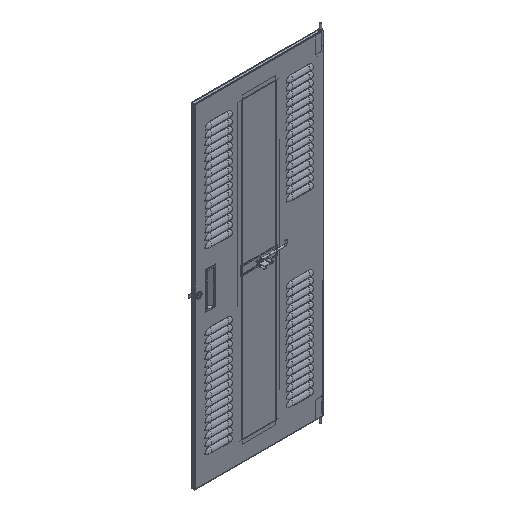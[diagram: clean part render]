
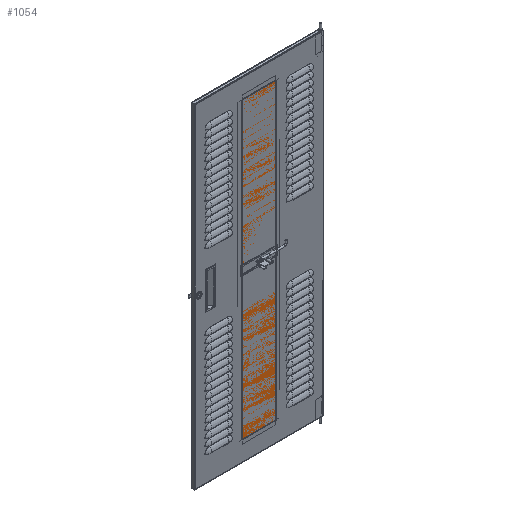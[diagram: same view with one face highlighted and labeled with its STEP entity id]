
A CAD part, isometric view. The second image highlights one B-rep face of the part: STEP entity #1054.
In plain terms, the highlighted planar face has unit normal (0, -1, 0).
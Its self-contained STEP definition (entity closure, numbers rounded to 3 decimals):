
#1054 = ADVANCED_FACE( '', ( #2561 ), #2562, .T. );
#2561 = FACE_OUTER_BOUND( '', #4361, .T. );
#2562 = PLANE( '', #4362 );
#4361 = EDGE_LOOP( '', ( #10094, #10095, #10096, #10097 ) );
#4362 = AXIS2_PLACEMENT_3D( '', #10098, #10099, #10100 );
#10094 = ORIENTED_EDGE( '', *, *, #12716, .T. );
#10095 = ORIENTED_EDGE( '', *, *, #12717, .F. );
#10096 = ORIENTED_EDGE( '', *, *, #12718, .T. );
#10097 = ORIENTED_EDGE( '', *, *, #12719, .T. );
#10098 = CARTESIAN_POINT( '', ( -63.576, 0., -546.1 ) );
#10099 = DIRECTION( '', ( 0., -1., 0. ) );
#10100 = DIRECTION( '', ( 0., 0., -1. ) );
#12716 = EDGE_CURVE( '', #15780, #15781, #15782, .T. );
#12717 = EDGE_CURVE( '', #15783, #15781, #15784, .T. );
#12718 = EDGE_CURVE( '', #15783, #15785, #15786, .T. );
#12719 = EDGE_CURVE( '', #15785, #15780, #15787, .T. );
#15780 = VERTEX_POINT( '', #19899 );
#15781 = VERTEX_POINT( '', #19900 );
#15782 = LINE( '', #19901, #19902 );
#15783 = VERTEX_POINT( '', #19903 );
#15784 = LINE( '', #19904, #19905 );
#15785 = VERTEX_POINT( '', #19906 );
#15786 = LINE( '', #19907, #19908 );
#15787 = LINE( '', #19909, #19910 );
#19899 = CARTESIAN_POINT( '', ( 61.747, 0., -544.271 ) );
#19900 = CARTESIAN_POINT( '', ( 61.747, 0., 544.271 ) );
#19901 = CARTESIAN_POINT( '', ( 61.747, 0., -544.271 ) );
#19902 = VECTOR( '', #24267, 1000. );
#19903 = CARTESIAN_POINT( '', ( -61.747, 0., 544.271 ) );
#19904 = CARTESIAN_POINT( '', ( -61.747, 0., 544.271 ) );
#19905 = VECTOR( '', #24268, 1000. );
#19906 = CARTESIAN_POINT( '', ( -61.747, 0., -544.271 ) );
#19907 = CARTESIAN_POINT( '', ( -61.747, 0., 544.271 ) );
#19908 = VECTOR( '', #24269, 1000. );
#19909 = CARTESIAN_POINT( '', ( -61.747, 0., -544.271 ) );
#19910 = VECTOR( '', #24270, 1000. );
#24267 = DIRECTION( '', ( 0., 0., 1. ) );
#24268 = DIRECTION( '', ( 1., 0., 0. ) );
#24269 = DIRECTION( '', ( 0., 0., -1. ) );
#24270 = DIRECTION( '', ( 1., 0., 0. ) );
